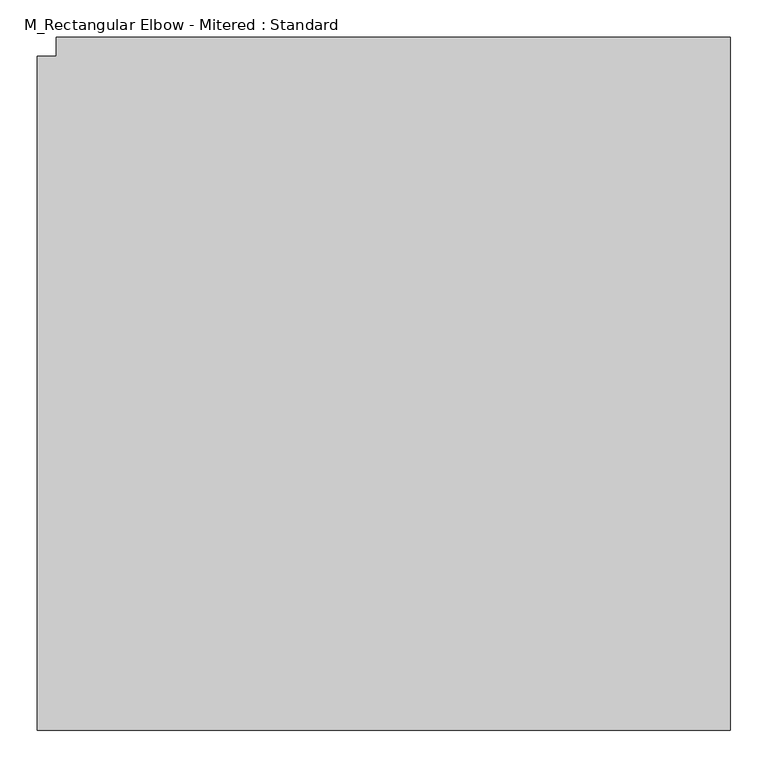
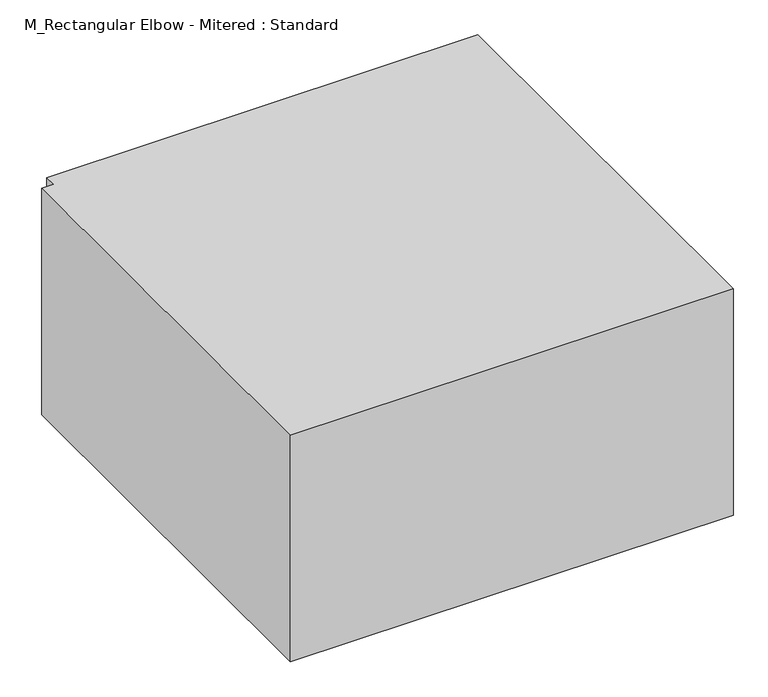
"""IFC4 building model written with IfcOpenShell, lengths in millimetres: duct fitting geometry, M_Rectangular Elbow - Mitered : Standard."""

from ifc_helpers import new_model, si_unit, frame, origin, place, context, project, spatial, polyline, outline, extrude, source, transform, mapped, element, save


def m_rectangular_elbow_mitered_standard_084eb264(model_context):
    return source(origin(), model_context, "Body", "SweptSolid", [
        extrude(outline(polyline([(-475.0, -450.0), (-475.0, 450.0), (-450.0, 450.0), (-450.0, 475.0), (450.0, 475.0), (450.0, -450.0), (-475.0, -450.0)])), frame((0.0, 0.0, -250.0), z_axis=(0.0, 0.0, 1.0), x_axis=(1.0, 0.0, 0.0)), (0.0, 0.0, 1.0), 500.0),
        extrude(outline(polyline([(-475.0, -450.0), (-475.0, 450.0), (-450.0, 450.0), (-450.0, 475.0), (450.0, 475.0), (450.0, -450.0), (-475.0, -450.0)])), frame((0.0, 0.0, -250.0), z_axis=(0.0, 0.0, 1.0), x_axis=(1.0, 0.0, 0.0)), (0.0, 0.0, 1.0), 500.0),
        extrude(outline(polyline([(-475.0, -450.0), (-475.0, 450.0), (-450.0, 450.0), (-450.0, 475.0), (450.0, 475.0), (450.0, -450.0), (-475.0, -450.0)])), frame((0.0, 0.0, -250.0), z_axis=(0.0, 0.0, 1.0), x_axis=(1.0, 0.0, 0.0)), (0.0, 0.0, 1.0), 500.0),
    ])


if __name__ == "__main__":
    model = new_model("IFC4")
    model_context = context("Model", 3, world=origin())
    ifc_project = project(units=[si_unit("LENGTHUNIT", "METRE", prefix="MILLI")], contexts=[model_context])
    site = spatial("IfcSite", under=ifc_project)
    building = spatial("IfcBuilding", under=site)
    placement = place(None, origin())
    m_rectangular_elbow_mitered_standard_shape = m_rectangular_elbow_mitered_standard_084eb264(model_context)
    element("IfcDuctFitting", 1, ObjectType="M_Rectangular Elbow - Mitered : Standard", at=placement, inside=building, context=model_context, shape_type="MappedRepresentation", body=[
        mapped(m_rectangular_elbow_mitered_standard_shape, transform((0.0, 0.0, 0.0), x_axis=(1.0, 0.0, 0.0), y_axis=(0.0, 1.0, 0.0), z_axis=(0.0, 0.0, 1.0))),
    ])
    save(model, "model.ifc")
